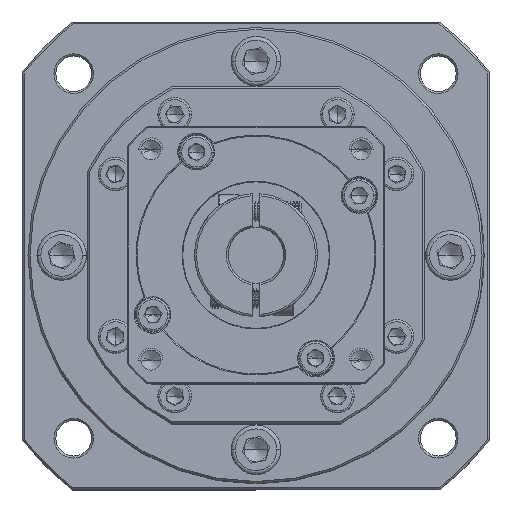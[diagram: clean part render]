
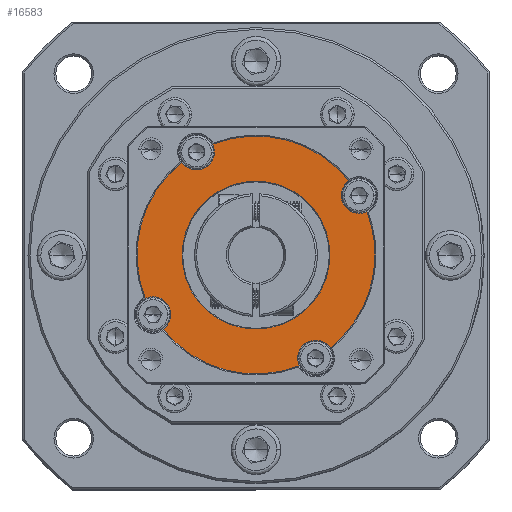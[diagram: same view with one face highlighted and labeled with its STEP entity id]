
A CAD part, top view. The second image highlights one B-rep face of the part: STEP entity #16583.
In plain terms, the highlighted planar face has unit normal (0, 0, 1).
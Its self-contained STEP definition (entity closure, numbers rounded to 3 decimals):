
#2644 = VERTEX_POINT ( 'NONE', #68563 ) ;
#3621 = DIRECTION ( 'NONE',  ( 0., 0., 1. ) ) ;
#6244 = EDGE_CURVE ( 'NONE', #76511, #24671, #76822, .T. ) ;
#7120 = DIRECTION ( 'NONE',  ( 1., 0., 0. ) ) ;
#8321 = DIRECTION ( 'NONE',  ( 1., 0., 0. ) ) ;
#8436 = ORIENTED_EDGE ( 'NONE', *, *, #54054, .F. ) ;
#8492 = DIRECTION ( 'NONE',  ( 1., 0., 0. ) ) ;
#8541 = ORIENTED_EDGE ( 'NONE', *, *, #43317, .T. ) ;
#8998 = EDGE_CURVE ( 'NONE', #76511, #45696, #114414, .T. ) ;
#9362 = ORIENTED_EDGE ( 'NONE', *, *, #55211, .F. ) ;
#11487 = CIRCLE ( 'NONE', #23185, 4.5 ) ;
#11623 = VERTEX_POINT ( 'NONE', #107818 ) ;
#11856 = CARTESIAN_POINT ( 'NONE',  ( -38.674, 30.482, 26.986 ) ) ;
#13066 = CARTESIAN_POINT ( 'NONE',  ( -57.391, 53.927, 26.986 ) ) ;
#13635 = DIRECTION ( 'NONE',  ( 0., 0., 1. ) ) ;
#14922 = ORIENTED_EDGE ( 'NONE', *, *, #34701, .T. ) ;
#16373 = AXIS2_PLACEMENT_3D ( 'NONE', #89362, #34465, #98567 ) ;
#16583 = ADVANCED_FACE ( 'NONE', ( #35600, #59936 ), #72253, .T. ) ;
#17003 = AXIS2_PLACEMENT_3D ( 'NONE', #58494, #3621, #67746 ) ;
#17675 = CIRCLE ( 'NONE', #82256, 4.5 ) ;
#17953 = CARTESIAN_POINT ( 'NONE',  ( -72.391, 79.907, 26.986 ) ) ;
#18628 = AXIS2_PLACEMENT_3D ( 'NONE', #68533, #13635, #77732 ) ;
#19394 = CARTESIAN_POINT ( 'NONE',  ( -83.372, 38.927, 26.986 ) ) ;
#19838 = DIRECTION ( 'NONE',  ( 0., 0., 1. ) ) ;
#19922 = CARTESIAN_POINT ( 'NONE',  ( -68.336, 81.859, 26.986 ) ) ;
#19932 = ORIENTED_EDGE ( 'NONE', *, *, #8998, .F. ) ;
#20218 = AXIS2_PLACEMENT_3D ( 'NONE', #107252, #52377, #116389 ) ;
#21652 = CARTESIAN_POINT ( 'NONE',  ( -80.836, 35.209, 26.986 ) ) ;
#22284 = DIRECTION ( 'NONE',  ( 1., 0., 0. ) ) ;
#23161 = AXIS2_PLACEMENT_3D ( 'NONE', #74744, #19838, #83945 ) ;
#23185 = AXIS2_PLACEMENT_3D ( 'NONE', #116925, #62060, #7120 ) ;
#23845 = CARTESIAN_POINT ( 'NONE',  ( -78.872, 38.927, 26.986 ) ) ;
#23896 = DIRECTION ( 'NONE',  ( 0., 0., 1. ) ) ;
#24671 = VERTEX_POINT ( 'NONE', #55191 ) ;
#25805 = DIRECTION ( 'NONE',  ( 0., 0., 1. ) ) ;
#27220 = DIRECTION ( 'NONE',  ( 1., 0., 0. ) ) ;
#27385 = VERTEX_POINT ( 'NONE', #74410 ) ;
#28646 = DIRECTION ( 'NONE',  ( 1., 0., 0. ) ) ;
#31177 = AXIS2_PLACEMENT_3D ( 'NONE', #78796, #23896, #88000 ) ;
#34465 = DIRECTION ( 'NONE',  ( 0., 0., -1. ) ) ;
#34701 = EDGE_CURVE ( 'NONE', #24671, #81814, #82885, .T. ) ;
#35027 = EDGE_CURVE ( 'NONE', #47407, #11623, #107177, .T. ) ;
#35600 = FACE_BOUND ( 'NONE', #64360, .T. ) ;
#35646 = CARTESIAN_POINT ( 'NONE',  ( -42.391, 27.946, 26.986 ) ) ;
#36318 = CARTESIAN_POINT ( 'NONE',  ( -46.891, 27.946, 26.986 ) ) ;
#37047 = EDGE_CURVE ( 'NONE', #88836, #42625, #11487, .T. ) ;
#37223 = VERTEX_POINT ( 'NONE', #19922 ) ;
#37858 = ORIENTED_EDGE ( 'NONE', *, *, #48577, .T. ) ;
#38293 = ORIENTED_EDGE ( 'NONE', *, *, #103153, .T. ) ;
#38852 = ORIENTED_EDGE ( 'NONE', *, *, #6244, .T. ) ;
#39064 = ORIENTED_EDGE ( 'NONE', *, *, #112008, .F. ) ;
#42625 = VERTEX_POINT ( 'NONE', #86745 ) ;
#43307 = CARTESIAN_POINT ( 'NONE',  ( -31.41, 68.927, 26.986 ) ) ;
#43317 = EDGE_CURVE ( 'NONE', #11623, #47407, #97151, .T. ) ;
#43743 = ORIENTED_EDGE ( 'NONE', *, *, #59380, .F. ) ;
#43892 = ORIENTED_EDGE ( 'NONE', *, *, #37047, .F. ) ;
#44197 = CARTESIAN_POINT ( 'NONE',  ( -83.372, 38.927, 26.986 ) ) ;
#44860 = DIRECTION ( 'NONE',  ( 1., 0., 0. ) ) ;
#45696 = VERTEX_POINT ( 'NONE', #36318 ) ;
#45723 = CARTESIAN_POINT ( 'NONE',  ( -76.109, 77.371, 26.986 ) ) ;
#47407 = VERTEX_POINT ( 'NONE', #103039 ) ;
#47526 = VERTEX_POINT ( 'NONE', #21652 ) ;
#47665 = EDGE_CURVE ( 'NONE', #57506, #81814, #96659, .T. ) ;
#48577 = EDGE_CURVE ( 'NONE', #47526, #2644, #100732, .T. ) ;
#50462 = CARTESIAN_POINT ( 'NONE',  ( -85.323, 42.981, 26.986 ) ) ;
#52377 = DIRECTION ( 'NONE',  ( 0., 0., 1. ) ) ;
#52517 = DIRECTION ( 'NONE',  ( 1., 0., 0. ) ) ;
#53375 = DIRECTION ( 'NONE',  ( 1., 0., 0. ) ) ;
#54054 = EDGE_CURVE ( 'NONE', #118159, #114555, #72964, .T. ) ;
#55191 = CARTESIAN_POINT ( 'NONE',  ( -27.391, 53.927, 26.986 ) ) ;
#55211 = EDGE_CURVE ( 'NONE', #27385, #57506, #64219, .T. ) ;
#57506 = VERTEX_POINT ( 'NONE', #104583 ) ;
#58494 = CARTESIAN_POINT ( 'NONE',  ( -57.391, 53.927, 26.986 ) ) ;
#59380 = EDGE_CURVE ( 'NONE', #42625, #37223, #80696, .T. ) ;
#59936 = FACE_OUTER_BOUND ( 'NONE', #98750, .T. ) ;
#62060 = DIRECTION ( 'NONE',  ( 0., 0., 1. ) ) ;
#63218 = DIRECTION ( 'NONE',  ( 0., 0., -1. ) ) ;
#63400 = DIRECTION ( 'NONE',  ( 0., 0., 1. ) ) ;
#64219 = CIRCLE ( 'NONE', #31177, 4.5 ) ;
#64360 = EDGE_LOOP ( 'NONE', ( #83332, #8541 ) ) ;
#65804 = EDGE_CURVE ( 'NONE', #88836, #114555, #118396, .T. ) ;
#67746 = DIRECTION ( 'NONE',  ( 1., 0., 0. ) ) ;
#68533 = CARTESIAN_POINT ( 'NONE',  ( -57.391, 53.927, 26.986 ) ) ;
#68563 = CARTESIAN_POINT ( 'NONE',  ( -46.446, 25.994, 26.986 ) ) ;
#68861 = ORIENTED_EDGE ( 'NONE', *, *, #91866, .F. ) ;
#70789 = AXIS2_PLACEMENT_3D ( 'NONE', #43307, #107394, #52517 ) ;
#72253 = PLANE ( 'NONE',  #77965 ) ;
#72964 = CIRCLE ( 'NONE', #80110, 4.5 ) ;
#74410 = CARTESIAN_POINT ( 'NONE',  ( -33.946, 72.644, 26.986 ) ) ;
#74744 = CARTESIAN_POINT ( 'NONE',  ( -42.391, 27.946, 26.986 ) ) ;
#76277 = ORIENTED_EDGE ( 'NONE', *, *, #65804, .T. ) ;
#76511 = VERTEX_POINT ( 'NONE', #11856 ) ;
#76822 = CIRCLE ( 'NONE', #111125, 30. ) ;
#77193 = DIRECTION ( 'NONE',  ( 0., 0., 1. ) ) ;
#77732 = DIRECTION ( 'NONE',  ( 1., 0., 0. ) ) ;
#77965 = AXIS2_PLACEMENT_3D ( 'NONE', #118262, #63400, #8492 ) ;
#78796 = CARTESIAN_POINT ( 'NONE',  ( -31.41, 68.927, 26.986 ) ) ;
#80110 = AXIS2_PLACEMENT_3D ( 'NONE', #19394, #83479, #28646 ) ;
#80693 = CARTESIAN_POINT ( 'NONE',  ( -57.391, 53.927, 26.986 ) ) ;
#80696 = CIRCLE ( 'NONE', #84640, 4.5 ) ;
#81814 = VERTEX_POINT ( 'NONE', #103434 ) ;
#82071 = DIRECTION ( 'NONE',  ( 0., 0., 1. ) ) ;
#82256 = AXIS2_PLACEMENT_3D ( 'NONE', #35646, #99723, #44860 ) ;
#82885 = CIRCLE ( 'NONE', #18628, 30. ) ;
#83332 = ORIENTED_EDGE ( 'NONE', *, *, #35027, .T. ) ;
#83479 = DIRECTION ( 'NONE',  ( 0., 0., 1. ) ) ;
#83945 = DIRECTION ( 'NONE',  ( 1., 0., 0. ) ) ;
#84640 = AXIS2_PLACEMENT_3D ( 'NONE', #17953, #82071, #27220 ) ;
#85052 = CIRCLE ( 'NONE', #95472, 4.5 ) ;
#86745 = CARTESIAN_POINT ( 'NONE',  ( -67.891, 79.907, 26.986 ) ) ;
#88000 = DIRECTION ( 'NONE',  ( 1., 0., 0. ) ) ;
#88836 = VERTEX_POINT ( 'NONE', #45723 ) ;
#89362 = CARTESIAN_POINT ( 'NONE',  ( -57.391, 53.927, 26.986 ) ) ;
#89903 = DIRECTION ( 'NONE',  ( 1., 0., 0. ) ) ;
#90936 = ORIENTED_EDGE ( 'NONE', *, *, #47665, .F. ) ;
#91866 = EDGE_CURVE ( 'NONE', #47526, #118159, #85052, .T. ) ;
#95472 = AXIS2_PLACEMENT_3D ( 'NONE', #44197, #108270, #53375 ) ;
#96197 = AXIS2_PLACEMENT_3D ( 'NONE', #118079, #63218, #8321 ) ;
#96659 = CIRCLE ( 'NONE', #70789, 4.5 ) ;
#97151 = CIRCLE ( 'NONE', #16373, 18.644 ) ;
#98567 = DIRECTION ( 'NONE',  ( 1., 0., 0. ) ) ;
#98750 = EDGE_LOOP ( 'NONE', ( #68861, #37858, #39064, #19932, #38852, #14922, #90936, #9362, #38293, #43743, #43892, #76277, #8436 ) ) ;
#99723 = DIRECTION ( 'NONE',  ( 0., 0., 1. ) ) ;
#100732 = CIRCLE ( 'NONE', #20218, 30. ) ;
#103039 = CARTESIAN_POINT ( 'NONE',  ( -38.747, 53.927, 26.986 ) ) ;
#103153 = EDGE_CURVE ( 'NONE', #27385, #37223, #116913, .T. ) ;
#103434 = CARTESIAN_POINT ( 'NONE',  ( -29.459, 64.872, 26.986 ) ) ;
#104583 = CARTESIAN_POINT ( 'NONE',  ( -35.91, 68.927, 26.986 ) ) ;
#105611 = AXIS2_PLACEMENT_3D ( 'NONE', #80693, #25805, #89903 ) ;
#107177 = CIRCLE ( 'NONE', #96197, 18.644 ) ;
#107252 = CARTESIAN_POINT ( 'NONE',  ( -57.391, 53.927, 26.986 ) ) ;
#107394 = DIRECTION ( 'NONE',  ( 0., 0., 1. ) ) ;
#107818 = CARTESIAN_POINT ( 'NONE',  ( -76.036, 53.927, 26.986 ) ) ;
#108270 = DIRECTION ( 'NONE',  ( 0., 0., 1. ) ) ;
#111125 = AXIS2_PLACEMENT_3D ( 'NONE', #13066, #77193, #22284 ) ;
#112008 = EDGE_CURVE ( 'NONE', #45696, #2644, #17675, .T. ) ;
#114414 = CIRCLE ( 'NONE', #23161, 4.5 ) ;
#114555 = VERTEX_POINT ( 'NONE', #50462 ) ;
#116389 = DIRECTION ( 'NONE',  ( 1., 0., 0. ) ) ;
#116913 = CIRCLE ( 'NONE', #105611, 30. ) ;
#116925 = CARTESIAN_POINT ( 'NONE',  ( -72.391, 79.907, 26.986 ) ) ;
#118079 = CARTESIAN_POINT ( 'NONE',  ( -57.391, 53.927, 26.986 ) ) ;
#118159 = VERTEX_POINT ( 'NONE', #23845 ) ;
#118262 = CARTESIAN_POINT ( 'NONE',  ( -57.391, 53.927, 26.986 ) ) ;
#118396 = CIRCLE ( 'NONE', #17003, 30. ) ;
